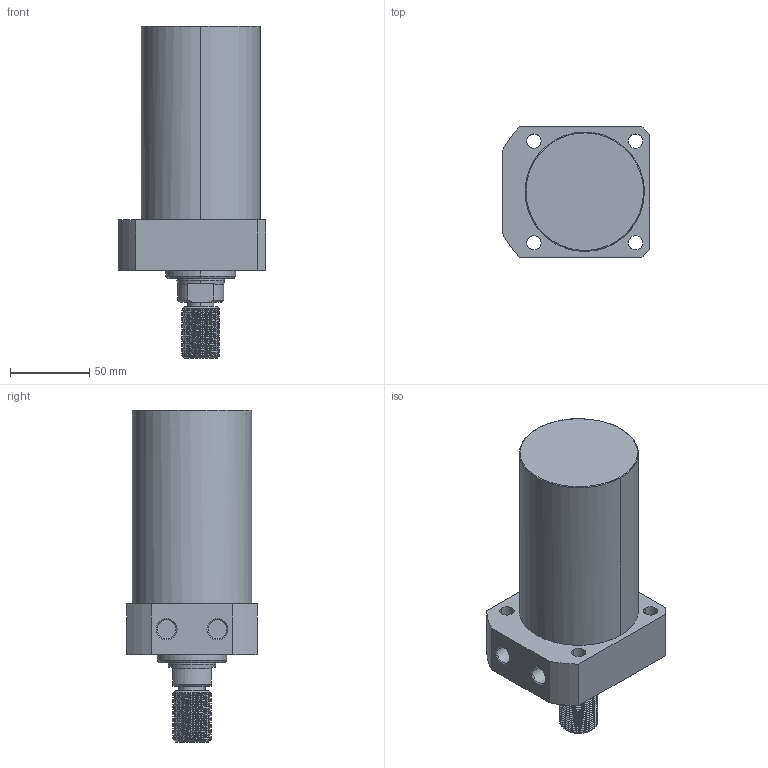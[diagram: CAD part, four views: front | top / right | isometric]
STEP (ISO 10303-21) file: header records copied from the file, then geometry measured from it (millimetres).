
FILE_DESCRIPTION((' '),'2;1');
FILE_NAME( 'TLLR-075CT-085.STEP.stp', '2025-10-24T16:35:10', (' '), ('--- Datakit www.datakit.com---'), ' Datakit CrossCadWare V2024.1 Dec 21 2023', 'Mastercam 2025', ' ');
FILE_SCHEMA(('AUTOMOTIVE_DESIGN { 1 0 10303 214 1 1 1 1 }'));
Length unit declared in the file: millimetre
Products named in the file (1): TLLR-075CT-085
Bounding box: 93 x 82 x 209 mm (x, y, z)
Volume: 795784.7 mm3; surface area: 65039 mm2
Topology: 1 solids, 1 shells, 109 faces, 397 edges, 299 vertices
Faces by surface type: cylinder 69, plane 22, cone 14, torus 2, bspline 2
Entity records: 13155 total; most frequent: CARTESIAN_POINT 9787, ORIENTED_EDGE 794, DIRECTION 545, EDGE_CURVE 397, VERTEX_POINT 299, AXIS2_PLACEMENT_3D 219, B_SPLINE_CURVE_WITH_KNOTS 179, EDGE_LOOP 126
